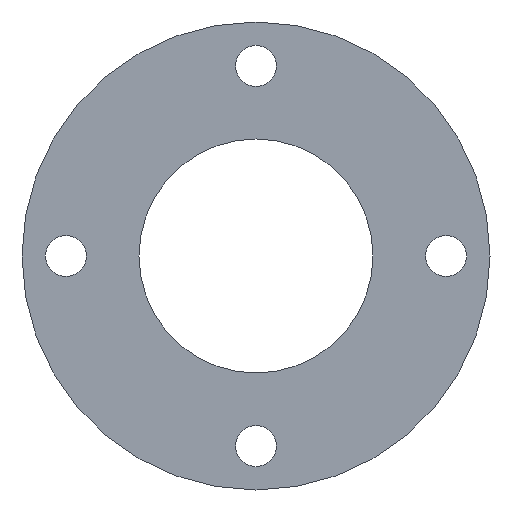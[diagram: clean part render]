
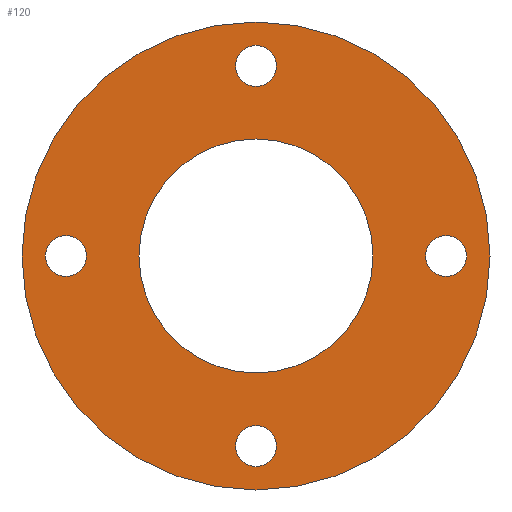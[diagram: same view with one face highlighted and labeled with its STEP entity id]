
A CAD part, left-side view. The second image highlights one B-rep face of the part: STEP entity #120.
In plain terms, the highlighted planar face has unit normal (-1, 0, 0).
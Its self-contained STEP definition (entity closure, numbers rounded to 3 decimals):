
#1 = AXIS2_PLACEMENT_3D ( 'NONE', #528, #137, #474 ) ;
#7 = EDGE_LOOP ( 'NONE', ( #510, #602 ) ) ;
#33 = ORIENTED_EDGE ( 'NONE', *, *, #110, .F. ) ;
#35 = ORIENTED_EDGE ( 'NONE', *, *, #421, .T. ) ;
#44 = VERTEX_POINT ( 'NONE', #642 ) ;
#53 = DIRECTION ( 'NONE',  ( 1., 0., 0. ) ) ;
#74 = ORIENTED_EDGE ( 'NONE', *, *, #683, .T. ) ;
#77 = EDGE_CURVE ( 'NONE', #485, #407, #114, .T. ) ;
#81 = VERTEX_POINT ( 'NONE', #85 ) ;
#85 = CARTESIAN_POINT ( 'NONE',  ( 0., 0., -29. ) ) ;
#87 = DIRECTION ( 'NONE',  ( 0., 0., 1. ) ) ;
#94 = CIRCLE ( 'NONE', #596, 3.5 ) ;
#102 = EDGE_LOOP ( 'NONE', ( #274, #35 ) ) ;
#103 = CIRCLE ( 'NONE', #256, 40. ) ;
#110 = EDGE_CURVE ( 'NONE', #44, #542, #289, .T. ) ;
#114 = CIRCLE ( 'NONE', #692, 3.5 ) ;
#120 = ADVANCED_FACE ( 'NONE', ( #325, #239, #380, #498, #333, #709 ), #693, .F. ) ;
#133 = CIRCLE ( 'NONE', #172, 3.5 ) ;
#136 = ORIENTED_EDGE ( 'NONE', *, *, #382, .T. ) ;
#137 = DIRECTION ( 'NONE',  ( -1., 0., 0. ) ) ;
#139 = CARTESIAN_POINT ( 'NONE',  ( 0., 40., 0. ) ) ;
#140 = EDGE_CURVE ( 'NONE', #165, #664, #209, .T. ) ;
#141 = AXIS2_PLACEMENT_3D ( 'NONE', #727, #341, #670 ) ;
#146 = CARTESIAN_POINT ( 'NONE',  ( 0., 0., 0. ) ) ;
#153 = AXIS2_PLACEMENT_3D ( 'NONE', #139, #584, #183 ) ;
#158 = DIRECTION ( 'NONE',  ( 0., 0., 1. ) ) ;
#161 = CARTESIAN_POINT ( 'NONE',  ( 0., 0., 29. ) ) ;
#163 = DIRECTION ( 'NONE',  ( 0., 0., -1. ) ) ;
#165 = VERTEX_POINT ( 'NONE', #362 ) ;
#172 = AXIS2_PLACEMENT_3D ( 'NONE', #218, #561, #163 ) ;
#183 = DIRECTION ( 'NONE',  ( 0., 0., -1. ) ) ;
#185 = AXIS2_PLACEMENT_3D ( 'NONE', #631, #247, #581 ) ;
#207 = VERTEX_POINT ( 'NONE', #360 ) ;
#209 = CIRCLE ( 'NONE', #185, 3.5 ) ;
#210 = CIRCLE ( 'NONE', #141, 40. ) ;
#213 = AXIS2_PLACEMENT_3D ( 'NONE', #396, #724, #340 ) ;
#216 = CARTESIAN_POINT ( 'NONE',  ( 0., 0., 0. ) ) ;
#218 = CARTESIAN_POINT ( 'NONE',  ( 0., 32.5, 0. ) ) ;
#219 = VERTEX_POINT ( 'NONE', #297 ) ;
#234 = DIRECTION ( 'NONE',  ( 1., 0., 0. ) ) ;
#239 = FACE_BOUND ( 'NONE', #431, .T. ) ;
#247 = DIRECTION ( 'NONE',  ( 1., 0., 0. ) ) ;
#254 = EDGE_LOOP ( 'NONE', ( #33, #359 ) ) ;
#256 = AXIS2_PLACEMENT_3D ( 'NONE', #216, #553, #158 ) ;
#270 = EDGE_CURVE ( 'NONE', #207, #219, #726, .T. ) ;
#274 = ORIENTED_EDGE ( 'NONE', *, *, #366, .T. ) ;
#276 = DIRECTION ( 'NONE',  ( 0., 0., -1. ) ) ;
#279 = ORIENTED_EDGE ( 'NONE', *, *, #140, .T. ) ;
#289 = CIRCLE ( 'NONE', #1, 20. ) ;
#297 = CARTESIAN_POINT ( 'NONE',  ( 0., -32.5, -3.5 ) ) ;
#308 = DIRECTION ( 'NONE',  ( 1., 0., 0. ) ) ;
#320 = DIRECTION ( 'NONE',  ( 0., 0., -1. ) ) ;
#325 = FACE_BOUND ( 'NONE', #477, .T. ) ;
#332 = CARTESIAN_POINT ( 'NONE',  ( 0., 0., -32.5 ) ) ;
#333 = FACE_BOUND ( 'NONE', #254, .T. ) ;
#340 = DIRECTION ( 'NONE',  ( 0., 0., -1. ) ) ;
#341 = DIRECTION ( 'NONE',  ( -1., 0., 0. ) ) ;
#347 = CARTESIAN_POINT ( 'NONE',  ( 0., 0., 32.5 ) ) ;
#359 = ORIENTED_EDGE ( 'NONE', *, *, #490, .F. ) ;
#360 = CARTESIAN_POINT ( 'NONE',  ( 0., -32.5, 3.5 ) ) ;
#362 = CARTESIAN_POINT ( 'NONE',  ( 0., 32.5, 3.5 ) ) ;
#366 = EDGE_CURVE ( 'NONE', #536, #586, #210, .T. ) ;
#369 = AXIS2_PLACEMENT_3D ( 'NONE', #347, #53, #652 ) ;
#370 = CARTESIAN_POINT ( 'NONE',  ( 0., 0., -40. ) ) ;
#379 = CARTESIAN_POINT ( 'NONE',  ( 0., 0., -32.5 ) ) ;
#380 = FACE_BOUND ( 'NONE', #614, .T. ) ;
#382 = EDGE_CURVE ( 'NONE', #664, #165, #133, .T. ) ;
#384 = VERTEX_POINT ( 'NONE', #399 ) ;
#387 = EDGE_CURVE ( 'NONE', #219, #207, #608, .T. ) ;
#391 = CARTESIAN_POINT ( 'NONE',  ( 0., 0., -20. ) ) ;
#396 = CARTESIAN_POINT ( 'NONE',  ( 0., -32.5, 0. ) ) ;
#399 = CARTESIAN_POINT ( 'NONE',  ( 0., 0., -36. ) ) ;
#407 = VERTEX_POINT ( 'NONE', #161 ) ;
#415 = CARTESIAN_POINT ( 'NONE',  ( 0., 32.5, -3.5 ) ) ;
#417 = AXIS2_PLACEMENT_3D ( 'NONE', #332, #660, #276 ) ;
#421 = EDGE_CURVE ( 'NONE', #586, #536, #103, .T. ) ;
#427 = EDGE_CURVE ( 'NONE', #81, #384, #478, .T. ) ;
#431 = EDGE_LOOP ( 'NONE', ( #74, #446 ) ) ;
#446 = ORIENTED_EDGE ( 'NONE', *, *, #77, .T. ) ;
#462 = AXIS2_PLACEMENT_3D ( 'NONE', #622, #234, #571 ) ;
#474 = DIRECTION ( 'NONE',  ( 0., 0., 1. ) ) ;
#477 = EDGE_LOOP ( 'NONE', ( #136, #279 ) ) ;
#478 = CIRCLE ( 'NONE', #417, 3.5 ) ;
#480 = DIRECTION ( 'NONE',  ( -1., 0., 0. ) ) ;
#485 = VERTEX_POINT ( 'NONE', #647 ) ;
#489 = CIRCLE ( 'NONE', #369, 3.5 ) ;
#490 = EDGE_CURVE ( 'NONE', #542, #44, #513, .T. ) ;
#492 = EDGE_CURVE ( 'NONE', #384, #81, #94, .T. ) ;
#498 = FACE_BOUND ( 'NONE', #7, .T. ) ;
#510 = ORIENTED_EDGE ( 'NONE', *, *, #492, .T. ) ;
#513 = CIRCLE ( 'NONE', #630, 20. ) ;
#528 = CARTESIAN_POINT ( 'NONE',  ( 0., 0., 0. ) ) ;
#536 = VERTEX_POINT ( 'NONE', #644 ) ;
#542 = VERTEX_POINT ( 'NONE', #391 ) ;
#553 = DIRECTION ( 'NONE',  ( -1., 0., 0. ) ) ;
#561 = DIRECTION ( 'NONE',  ( 1., 0., 0. ) ) ;
#571 = DIRECTION ( 'NONE',  ( 0., 0., -1. ) ) ;
#581 = DIRECTION ( 'NONE',  ( 0., 0., -1. ) ) ;
#584 = DIRECTION ( 'NONE',  ( 1., 0., 0. ) ) ;
#586 = VERTEX_POINT ( 'NONE', #370 ) ;
#592 = ORIENTED_EDGE ( 'NONE', *, *, #387, .T. ) ;
#596 = AXIS2_PLACEMENT_3D ( 'NONE', #379, #703, #320 ) ;
#602 = ORIENTED_EDGE ( 'NONE', *, *, #427, .T. ) ;
#608 = CIRCLE ( 'NONE', #213, 3.5 ) ;
#614 = EDGE_LOOP ( 'NONE', ( #592, #675 ) ) ;
#622 = CARTESIAN_POINT ( 'NONE',  ( 0., -32.5, 0. ) ) ;
#630 = AXIS2_PLACEMENT_3D ( 'NONE', #146, #480, #87 ) ;
#631 = CARTESIAN_POINT ( 'NONE',  ( 0., 32.5, 0. ) ) ;
#637 = DIRECTION ( 'NONE',  ( 0., 0., -1. ) ) ;
#642 = CARTESIAN_POINT ( 'NONE',  ( 0., 0., 20. ) ) ;
#644 = CARTESIAN_POINT ( 'NONE',  ( 0., 0., 40. ) ) ;
#647 = CARTESIAN_POINT ( 'NONE',  ( 0., 0., 36. ) ) ;
#652 = DIRECTION ( 'NONE',  ( 0., 0., -1. ) ) ;
#660 = DIRECTION ( 'NONE',  ( 1., 0., 0. ) ) ;
#664 = VERTEX_POINT ( 'NONE', #415 ) ;
#670 = DIRECTION ( 'NONE',  ( 0., 0., 1. ) ) ;
#675 = ORIENTED_EDGE ( 'NONE', *, *, #270, .T. ) ;
#683 = EDGE_CURVE ( 'NONE', #407, #485, #489, .T. ) ;
#692 = AXIS2_PLACEMENT_3D ( 'NONE', #697, #308, #637 ) ;
#693 = PLANE ( 'NONE',  #153 ) ;
#697 = CARTESIAN_POINT ( 'NONE',  ( 0., 0., 32.5 ) ) ;
#703 = DIRECTION ( 'NONE',  ( 1., 0., 0. ) ) ;
#709 = FACE_OUTER_BOUND ( 'NONE', #102, .T. ) ;
#724 = DIRECTION ( 'NONE',  ( 1., 0., 0. ) ) ;
#726 = CIRCLE ( 'NONE', #462, 3.5 ) ;
#727 = CARTESIAN_POINT ( 'NONE',  ( 0., 0., 0. ) ) ;
